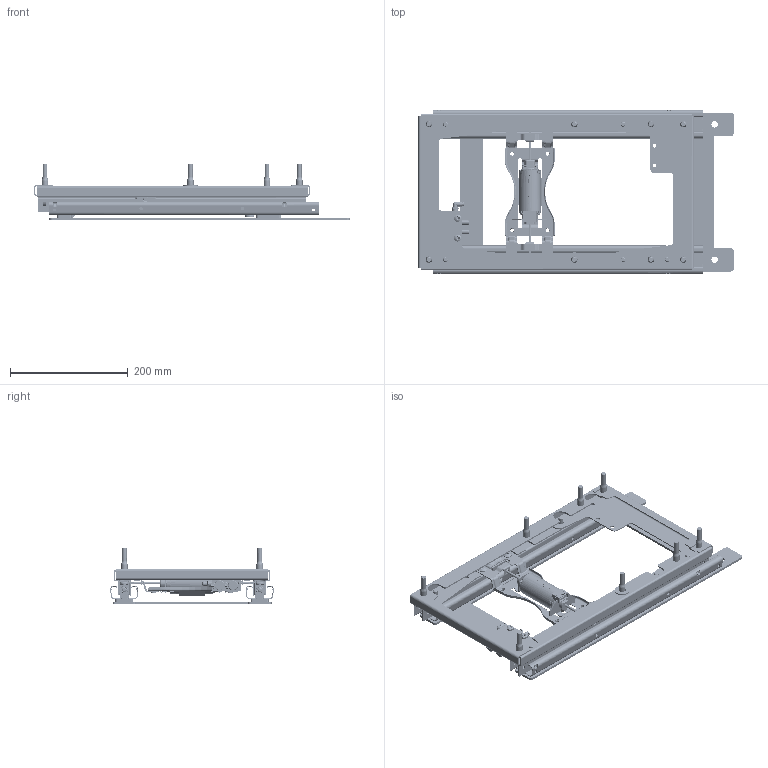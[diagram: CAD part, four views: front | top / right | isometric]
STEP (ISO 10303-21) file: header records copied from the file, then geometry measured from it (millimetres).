
FILE_DESCRIPTION(('CATIA V5 STEP Exchange'),'2;1');
FILE_NAME('F:\重卡项目整理未完待续\03-一汽项目\J7\装车支架数据-20240620.stp','2024-06-20T08:06:12+00:00',('none'),('none'),'CATIA Version 5 Release 20 GA (IN-10)','CATIA V5 STEP AP214','none');
FILE_SCHEMA(('AUTOMOTIVE_DESIGN { 1 0 10303 214 1 1 1 1 }'));
Products named in the file (5): J7+DD; Copy (1) of 68EN2531-00030; G3 SLIDE POWER_221209; SHT1; 000
Assembly tree (4 placements, depth 3):
  J7+DD
    Copy (1) of 68EN2531-00030
      G3 SLIDE POWER_221209
      SHT1
    000
Bounding box: 535.82 x 278.36 x 95 mm (x, y, z)
Volume: 939493 mm3; surface area: 845362.9 mm2
Topology: 75 solids, 78 shells, 8973 faces, 24516 edges, 15704 vertices
Faces by surface type: plane 3792, cylinder 2753, bspline 1109, cone 580, torus 402, revolution 136, sphere 128, extrusion 73
Entity records: 349062 total; most frequent: CARTESIAN_POINT 144300, ORIENTED_EDGE 48346, DIRECTION 31204, EDGE_CURVE 24173, VERTEX_POINT 15656, AXIS2_PLACEMENT_3D 12071, VECTOR 12061, LINE 11988
